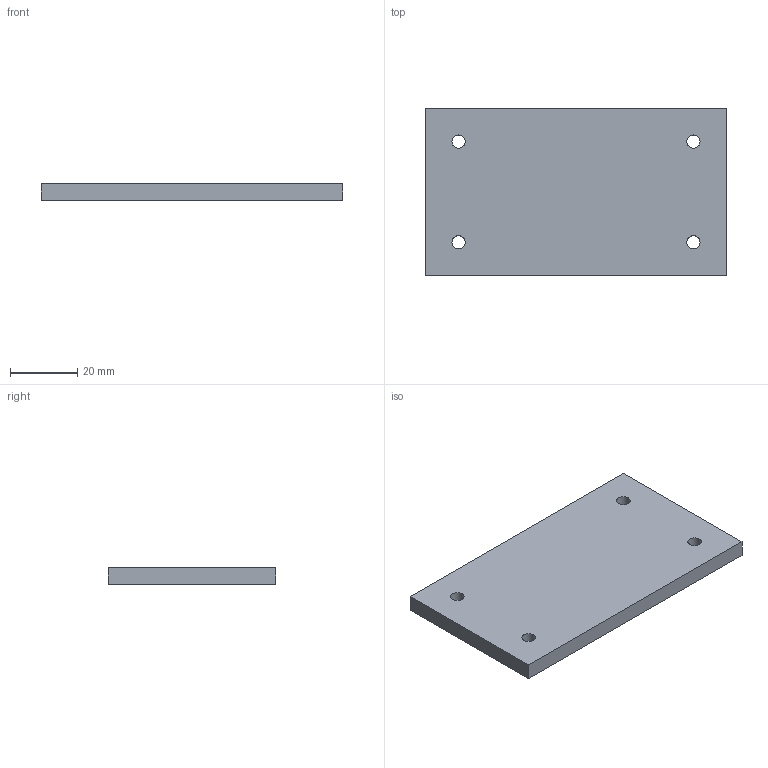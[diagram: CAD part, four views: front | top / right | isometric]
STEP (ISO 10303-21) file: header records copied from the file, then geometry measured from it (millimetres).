
FILE_DESCRIPTION(('Open CASCADE Model'),'2;1');
FILE_NAME('Open CASCADE Shape Model','2026-09-05T21:31:16',('Author'),( 'Open CASCADE'),'Open CASCADE STEP processor 7.8','build123d', 'Unknown');
FILE_SCHEMA(('AUTOMOTIVE_DESIGN { 1 0 10303 214 1 1 1 1 }'));
Length unit declared in the file: millimetre
Products named in the file (1): COMPOUND
Bounding box: 90 x 50 x 5 mm (x, y, z)
Volume: 22248.7 mm3; surface area: 10550.8 mm2
Topology: 1 solids, 1 shells, 10 faces, 24 edges, 16 vertices
Faces by surface type: plane 6, cylinder 4
Full cylindrical faces by diameter (mm): 4 x4
Entity records: 634 total; most frequent: DIRECTION 102, CARTESIAN_POINT 99, LINE 56, VECTOR 56, ORIENTED_EDGE 48, PCURVE 48, DEFINITIONAL_REPRESENTATION 48, EDGE_CURVE 24
